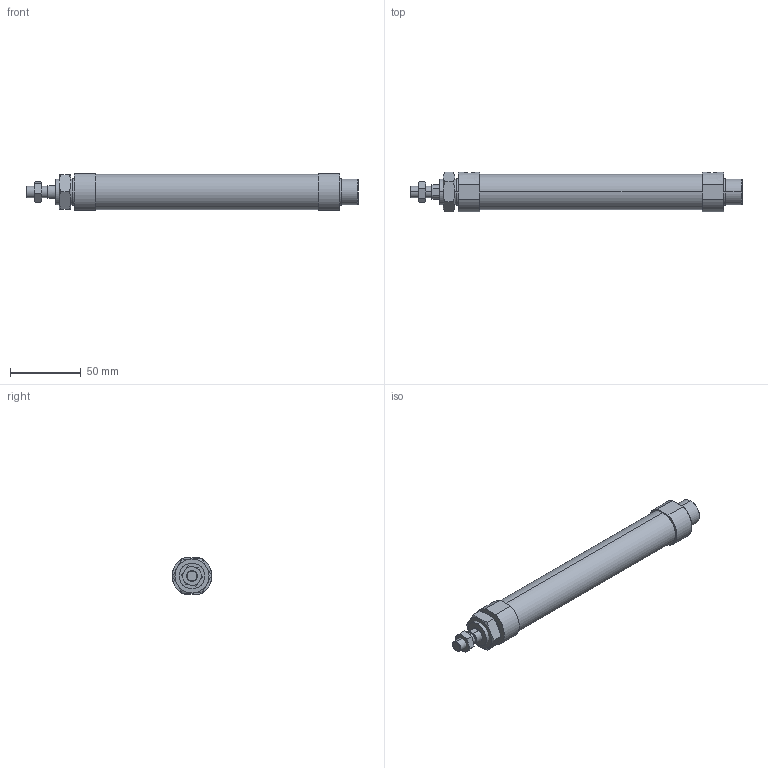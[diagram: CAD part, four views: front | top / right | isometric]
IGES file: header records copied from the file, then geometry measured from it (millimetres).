
Start section: SolidWorks IGES file using analytic representation for surfaces
Global section: file name: C:\Users\Toshiba\Desktop\J#2-20-125-N.IGS; native system: SolidWorks 2014; preprocessor: SolidWorks 2014; author: Toshiba; date: 160308.150427; units: millimetre
Bounding box: 234 x 28 x 26 mm (x, y, z)
Surface area: 21259.3 mm2 (no closed solid volume)
Topology: 0 solids, 0 shells, 92 faces, 1620 edges, 1620 vertices
Faces by surface type: bspline 60, revolution 32
